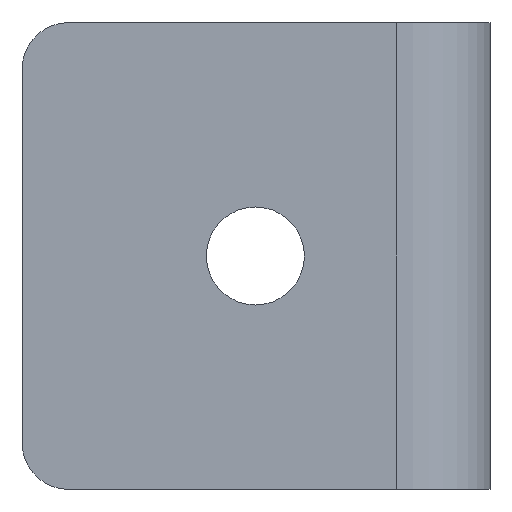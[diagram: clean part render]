
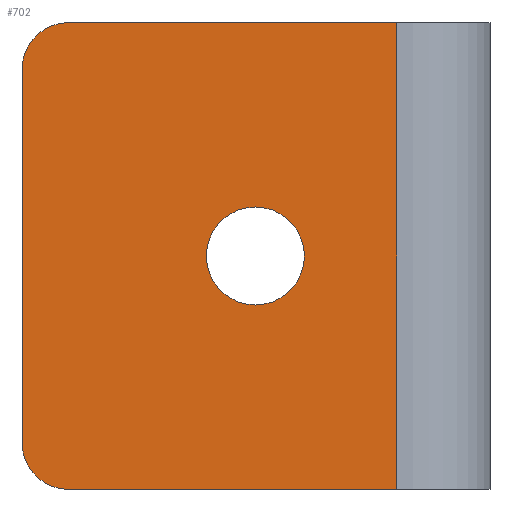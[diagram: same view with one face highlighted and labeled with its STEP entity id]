
A CAD part, left-side view. The second image highlights one B-rep face of the part: STEP entity #702.
In plain terms, the highlighted planar face has unit normal (-1, 0, 0).
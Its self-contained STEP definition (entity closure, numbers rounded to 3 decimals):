
#7 = AXIS2_PLACEMENT_3D ( 'NONE', #579, #323, #36 ) ;
#10 = ORIENTED_EDGE ( 'NONE', *, *, #666, .T. ) ;
#28 = VECTOR ( 'NONE', #230, 1000. ) ;
#36 = DIRECTION ( 'NONE',  ( 0., 0., 1. ) ) ;
#45 = ORIENTED_EDGE ( 'NONE', *, *, #612, .T. ) ;
#59 = AXIS2_PLACEMENT_3D ( 'NONE', #714, #531, #763 ) ;
#60 = CIRCLE ( 'NONE', #621, 3. ) ;
#62 = ORIENTED_EDGE ( 'NONE', *, *, #528, .T. ) ;
#101 = DIRECTION ( 'NONE',  ( 0., -1., 0. ) ) ;
#118 = CARTESIAN_POINT ( 'NONE',  ( -3.879, 2., 15. ) ) ;
#129 = CARTESIAN_POINT ( 'NONE',  ( -3.879, 26.079, 15. ) ) ;
#137 = VERTEX_POINT ( 'NONE', #597 ) ;
#153 = DIRECTION ( 'NONE',  ( 0., 0., 1. ) ) ;
#165 = LINE ( 'NONE', #266, #683 ) ;
#167 = EDGE_CURVE ( 'NONE', #370, #195, #649, .T. ) ;
#176 = VERTEX_POINT ( 'NONE', #594 ) ;
#188 = AXIS2_PLACEMENT_3D ( 'NONE', #478, #539, #153 ) ;
#195 = VERTEX_POINT ( 'NONE', #250 ) ;
#203 = CARTESIAN_POINT ( 'NONE',  ( -3.879, 23.079, 12. ) ) ;
#230 = DIRECTION ( 'NONE',  ( 0., 0., -1. ) ) ;
#233 = ORIENTED_EDGE ( 'NONE', *, *, #167, .F. ) ;
#250 = CARTESIAN_POINT ( 'NONE',  ( -3.879, 2., -15. ) ) ;
#266 = CARTESIAN_POINT ( 'NONE',  ( -3.879, 26.079, -15. ) ) ;
#267 = CIRCLE ( 'NONE', #512, 3.15 ) ;
#274 = EDGE_CURVE ( 'NONE', #137, #781, #729, .T. ) ;
#278 = CARTESIAN_POINT ( 'NONE',  ( -3.879, 26.079, -12. ) ) ;
#308 = VECTOR ( 'NONE', #101, 1000. ) ;
#323 = DIRECTION ( 'NONE',  ( 1., 0., 0. ) ) ;
#370 = VERTEX_POINT ( 'NONE', #568 ) ;
#394 = CIRCLE ( 'NONE', #59, 3. ) ;
#396 = DIRECTION ( 'NONE',  ( 1., 0., 0. ) ) ;
#415 = CARTESIAN_POINT ( 'NONE',  ( -3.879, 23.079, 15. ) ) ;
#430 = ORIENTED_EDGE ( 'NONE', *, *, #775, .F. ) ;
#445 = VECTOR ( 'NONE', #600, 1000. ) ;
#450 = DIRECTION ( 'NONE',  ( 0., 0., 1. ) ) ;
#454 = FACE_OUTER_BOUND ( 'NONE', #487, .T. ) ;
#468 = ORIENTED_EDGE ( 'NONE', *, *, #727, .T. ) ;
#478 = CARTESIAN_POINT ( 'NONE',  ( -3.879, 11.079, 0. ) ) ;
#487 = EDGE_LOOP ( 'NONE', ( #233, #430, #468, #595, #62, #546 ) ) ;
#505 = CARTESIAN_POINT ( 'NONE',  ( -3.879, 26.079, 15. ) ) ;
#509 = DIRECTION ( 'NONE',  ( 0., -1., 0. ) ) ;
#512 = AXIS2_PLACEMENT_3D ( 'NONE', #694, #396, #596 ) ;
#524 = VERTEX_POINT ( 'NONE', #415 ) ;
#526 = CIRCLE ( 'NONE', #188, 3.15 ) ;
#528 = EDGE_CURVE ( 'NONE', #781, #176, #394, .T. ) ;
#531 = DIRECTION ( 'NONE',  ( -1., 0., 0. ) ) ;
#539 = DIRECTION ( 'NONE',  ( 1., 0., 0. ) ) ;
#546 = ORIENTED_EDGE ( 'NONE', *, *, #695, .T. ) ;
#553 = EDGE_LOOP ( 'NONE', ( #45, #10 ) ) ;
#568 = CARTESIAN_POINT ( 'NONE',  ( -3.879, 2., 15. ) ) ;
#579 = CARTESIAN_POINT ( 'NONE',  ( -3.879, 26.079, 15. ) ) ;
#581 = CARTESIAN_POINT ( 'NONE',  ( -3.879, 11.079, 3.15 ) ) ;
#594 = CARTESIAN_POINT ( 'NONE',  ( -3.879, 23.079, -15. ) ) ;
#595 = ORIENTED_EDGE ( 'NONE', *, *, #274, .T. ) ;
#596 = DIRECTION ( 'NONE',  ( 0., 0., 1. ) ) ;
#597 = CARTESIAN_POINT ( 'NONE',  ( -3.879, 26.079, 12. ) ) ;
#600 = DIRECTION ( 'NONE',  ( 0., 0., -1. ) ) ;
#612 = EDGE_CURVE ( 'NONE', #740, #627, #267, .T. ) ;
#621 = AXIS2_PLACEMENT_3D ( 'NONE', #203, #679, #450 ) ;
#627 = VERTEX_POINT ( 'NONE', #581 ) ;
#629 = CARTESIAN_POINT ( 'NONE',  ( -3.879, 11.079, -3.15 ) ) ;
#632 = LINE ( 'NONE', #505, #308 ) ;
#636 = PLANE ( 'NONE',  #7 ) ;
#649 = LINE ( 'NONE', #118, #28 ) ;
#666 = EDGE_CURVE ( 'NONE', #627, #740, #526, .T. ) ;
#679 = DIRECTION ( 'NONE',  ( -1., 0., 0. ) ) ;
#683 = VECTOR ( 'NONE', #509, 1000. ) ;
#694 = CARTESIAN_POINT ( 'NONE',  ( -3.879, 11.079, 0. ) ) ;
#695 = EDGE_CURVE ( 'NONE', #176, #195, #165, .T. ) ;
#702 = ADVANCED_FACE ( 'NONE', ( #454, #753 ), #636, .F. ) ;
#714 = CARTESIAN_POINT ( 'NONE',  ( -3.879, 23.079, -12. ) ) ;
#727 = EDGE_CURVE ( 'NONE', #524, #137, #60, .T. ) ;
#729 = LINE ( 'NONE', #129, #445 ) ;
#740 = VERTEX_POINT ( 'NONE', #629 ) ;
#753 = FACE_BOUND ( 'NONE', #553, .T. ) ;
#763 = DIRECTION ( 'NONE',  ( 0., 0., 1. ) ) ;
#775 = EDGE_CURVE ( 'NONE', #524, #370, #632, .T. ) ;
#781 = VERTEX_POINT ( 'NONE', #278 ) ;
